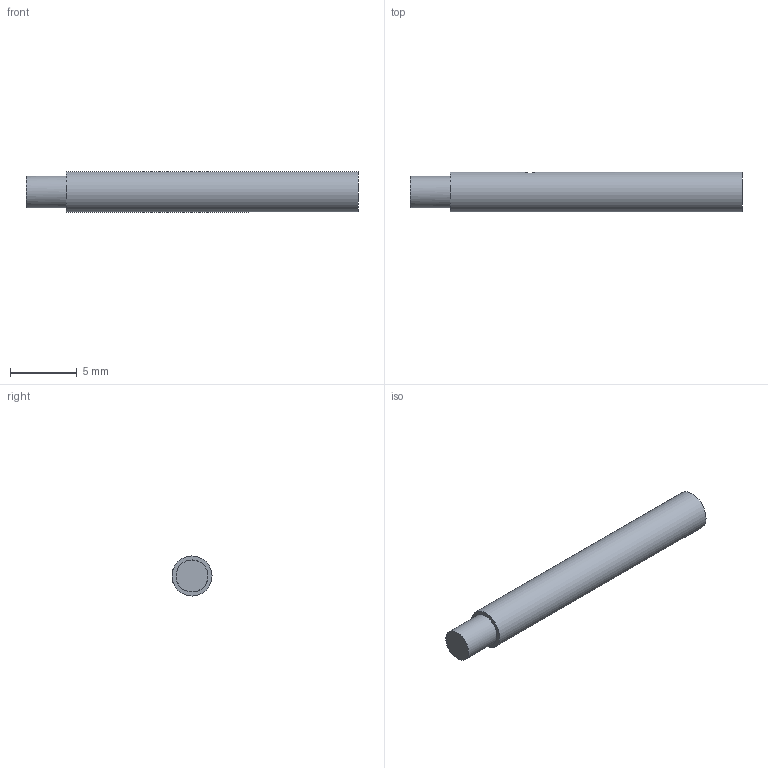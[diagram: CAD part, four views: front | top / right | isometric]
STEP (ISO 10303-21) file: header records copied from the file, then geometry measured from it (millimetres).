
FILE_DESCRIPTION( ( 'Unknown' ), '1' );
FILE_NAME( '//baumerholding.org/frauenfeld/bereich/BECH/Services/me_CAD/Solid Edge/Models/Dokumentationen/Induktiv/IxRx 03/Vereinfachte Modelle/Neutralformate/IFRM 03xxx01_L.stp', 'Unknown', ( 'Unknown' ), ( 'Unknown' ), 'XStep 1.0', 'Unknown', ' ' );
FILE_SCHEMA( ( 'CONFIG_CONTROL_DESIGN' ) );
Length unit declared in the file: millimetre
Products named in the file (1): 131655
Bounding box: 24.9 x 3 x 3 mm (x, y, z)
Volume: 168.2 mm3; surface area: 243.8 mm2
Topology: 1 solids, 1 shells, 7 faces, 10 edges, 7 vertices
Faces by surface type: cylinder 4, plane 3
Full cylindrical faces by diameter (mm): 1 x1, 2.4 x1, 3 x1
Entity records: 210 total; most frequent: CARTESIAN_POINT 58, DIRECTION 24, AXIS2_PLACEMENT_3D 12, EDGE_LOOP 12, ORIENTED_EDGE 12, FACE_OUTER_BOUND 10, ADVANCED_FACE 7, EDGE_CURVE 6
